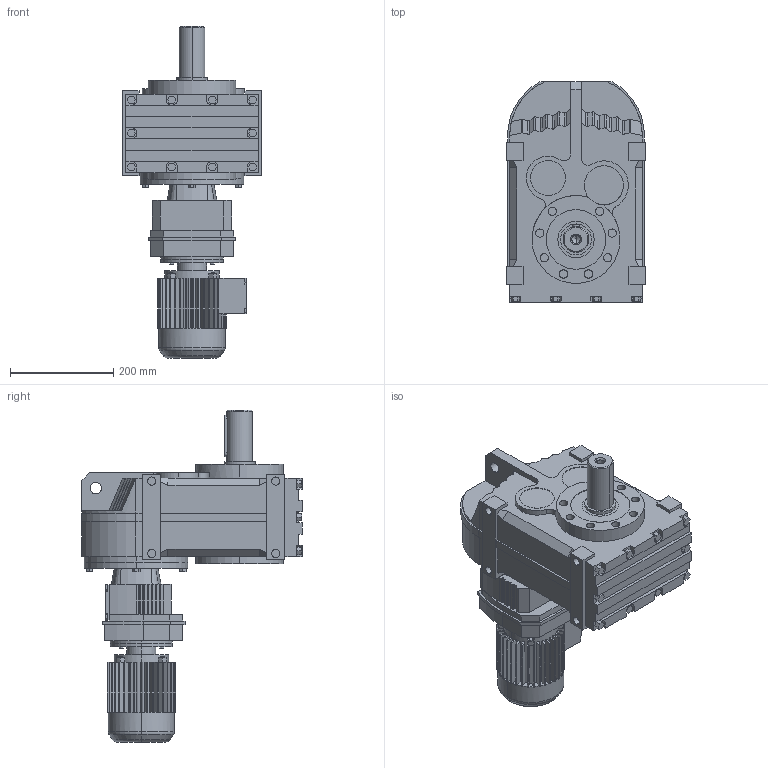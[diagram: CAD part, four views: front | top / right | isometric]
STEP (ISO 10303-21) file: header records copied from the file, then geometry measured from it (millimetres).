
FILE_DESCRIPTION(('Open CASCADE Model'),'2;1');
FILE_NAME('Open CASCADE Shape Model','2021-07-24T10:27:44',('Author'),( 'Open CASCADE'),'Open CASCADE STEP processor 6.3','Open CASCADE 6.3' ,'Unknown');
FILE_SCHEMA(('AUTOMOTIVE_DESIGN_CC2 { 1 2 10303 214 -1 1 5 4 }'));
Length unit declared in the file: millimetre
Products named in the file (5): 1_F77R37DR63; FAZ27‵157_77.step; 萇儂_120-DR63-191-246-132-105.step; R_77_37.step; す瑩妗陑粣F_77.step
Assembly tree (4 placements, depth 2):
  1_F77R37DR63
    FAZ27‵157_77.step
    萇儂_120-DR63-191-246-132-105.step
    R_77_37.step
    す瑩妗陑粣F_77.step
Bounding box: 270 x 426 x 642 mm (x, y, z)
Volume: 21705049.3 mm3; surface area: 976065 mm2
Topology: 4 solids, 4 shells, 1017 faces, 2690 edges, 1758 vertices
Faces by surface type: plane 752, cylinder 229, bspline 16, cone 16, torus 4
Entity records: 68450 total; most frequent: CARTESIAN_POINT 16405, DIRECTION 9180, LINE 5481, VECTOR 5481, ORIENTED_EDGE 5376, PCURVE 5376, DEFINITIONAL_REPRESENTATION 5376, EDGE_CURVE 2688
